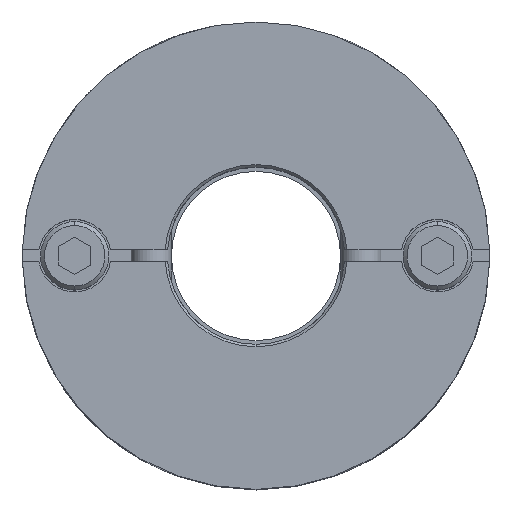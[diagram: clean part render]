
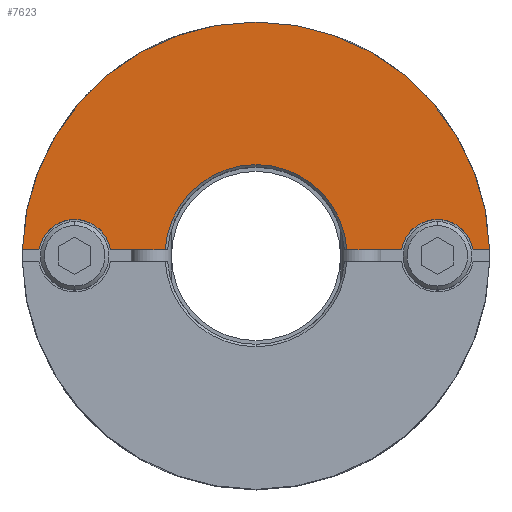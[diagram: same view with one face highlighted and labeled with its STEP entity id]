
A CAD part, top view. The second image highlights one B-rep face of the part: STEP entity #7623.
In plain terms, the highlighted planar face has unit normal (0, 0, 1).
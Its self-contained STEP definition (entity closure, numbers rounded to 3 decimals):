
#605=CARTESIAN_POINT('',(0.,29.,22.4));
#606=VERTEX_POINT('',#605);
#690=CARTESIAN_POINT('',(-28.99,0.75,22.4));
#691=VERTEX_POINT('',#690);
#698=CARTESIAN_POINT('',(0.0,0.,22.4));
#699=DIRECTION('',(0.0,0.0,-1.0));
#700=DIRECTION('',(0.0,1.0,0.0));
#701=AXIS2_PLACEMENT_3D('',#698,#699,#700);
#702=CIRCLE('',#701,29.0);
#703=EDGE_CURVE('',#691,#606,#702,.T.);
#915=CARTESIAN_POINT('',(0.,11.3,22.4));
#916=VERTEX_POINT('',#915);
#925=CARTESIAN_POINT('',(-11.275,0.75,22.4));
#926=VERTEX_POINT('',#925);
#927=CARTESIAN_POINT('',(0.0,0.,22.4));
#928=DIRECTION('',(0.0,0.0,1.0));
#929=DIRECTION('',(0.0,-1.0,0.0));
#930=AXIS2_PLACEMENT_3D('',#927,#928,#929);
#931=CIRCLE('',#930,11.3);
#932=EDGE_CURVE('',#916,#926,#931,.T.);
#1013=CARTESIAN_POINT('',(-22.5,4.5,22.4));
#1014=VERTEX_POINT('',#1013);
#1023=CARTESIAN_POINT('',(-26.937,0.75,22.4));
#1024=VERTEX_POINT('',#1023);
#1025=CARTESIAN_POINT('',(-22.5,0.,22.4));
#1026=DIRECTION('',(0.0,0.0,-1.0));
#1027=DIRECTION('',(0.0,1.0,0.0));
#1028=AXIS2_PLACEMENT_3D('',#1025,#1026,#1027);
#1029=CIRCLE('',#1028,4.5);
#1030=EDGE_CURVE('',#1024,#1014,#1029,.T.);
#1097=CARTESIAN_POINT('',(22.5,4.5,22.4));
#1098=VERTEX_POINT('',#1097);
#1107=CARTESIAN_POINT('',(18.063,0.75,22.4));
#1108=VERTEX_POINT('',#1107);
#1109=CARTESIAN_POINT('',(22.5,0.,22.4));
#1110=DIRECTION('',(0.0,0.0,-1.0));
#1111=DIRECTION('',(0.0,1.0,0.0));
#1112=AXIS2_PLACEMENT_3D('',#1109,#1110,#1111);
#1113=CIRCLE('',#1112,4.5);
#1114=EDGE_CURVE('',#1108,#1098,#1113,.T.);
#6292=CARTESIAN_POINT('',(11.275,0.75,22.4));
#6293=VERTEX_POINT('',#6292);
#6294=CARTESIAN_POINT('',(11.275,0.75,22.4));
#6295=DIRECTION('',(1.0,0.0,0.0));
#6296=VECTOR('',#6295,6.788);
#6297=LINE('',#6294,#6296);
#6298=EDGE_CURVE('',#6293,#1108,#6297,.T.);
#6667=CARTESIAN_POINT('',(-18.063,0.75,22.4));
#6668=VERTEX_POINT('',#6667);
#6669=CARTESIAN_POINT('',(-18.063,0.75,22.4));
#6670=DIRECTION('',(1.0,0.0,0.0));
#6671=VECTOR('',#6670,6.788);
#6672=LINE('',#6669,#6671);
#6673=EDGE_CURVE('',#6668,#926,#6672,.T.);
#7430=CARTESIAN_POINT('',(26.937,0.75,22.4));
#7431=VERTEX_POINT('',#7430);
#7438=CARTESIAN_POINT('',(22.5,0.,22.4));
#7439=DIRECTION('',(0.0,0.0,-1.0));
#7440=DIRECTION('',(0.0,1.0,0.0));
#7441=AXIS2_PLACEMENT_3D('',#7438,#7439,#7440);
#7442=CIRCLE('',#7441,4.5);
#7443=EDGE_CURVE('',#1098,#7431,#7442,.T.);
#7486=CARTESIAN_POINT('',(-22.5,0.,22.4));
#7487=DIRECTION('',(0.0,0.0,-1.0));
#7488=DIRECTION('',(0.0,1.0,0.0));
#7489=AXIS2_PLACEMENT_3D('',#7486,#7487,#7488);
#7490=CIRCLE('',#7489,4.5);
#7491=EDGE_CURVE('',#1014,#6668,#7490,.T.);
#7510=CARTESIAN_POINT('',(28.99,0.75,22.4));
#7511=VERTEX_POINT('',#7510);
#7518=CARTESIAN_POINT('',(26.937,0.75,22.4));
#7519=DIRECTION('',(1.0,0.0,0.0));
#7520=VECTOR('',#7519,2.053);
#7521=LINE('',#7518,#7520);
#7522=EDGE_CURVE('',#7431,#7511,#7521,.T.);
#7587=CARTESIAN_POINT('',(0.,2.636,22.4));
#7588=DIRECTION('',(0.0,0.0,1.0));
#7589=DIRECTION('',(0.0,1.0,0.0));
#7590=AXIS2_PLACEMENT_3D('',#7587,#7588,#7589);
#7591=PLANE('',#7590);
#7592=ORIENTED_EDGE('',*,*,#1114,.T.);
#7593=ORIENTED_EDGE('',*,*,#7443,.T.);
#7594=ORIENTED_EDGE('',*,*,#7522,.T.);
#7595=CARTESIAN_POINT('',(0.0,0.,22.4));
#7596=DIRECTION('',(0.0,0.0,-1.0));
#7597=DIRECTION('',(0.0,1.0,0.0));
#7598=AXIS2_PLACEMENT_3D('',#7595,#7596,#7597);
#7599=CIRCLE('',#7598,29.0);
#7600=EDGE_CURVE('',#606,#7511,#7599,.T.);
#7601=ORIENTED_EDGE('',*,*,#7600,.F.);
#7602=ORIENTED_EDGE('',*,*,#703,.F.);
#7603=CARTESIAN_POINT('',(-28.99,0.75,22.4));
#7604=DIRECTION('',(1.0,0.0,0.0));
#7605=VECTOR('',#7604,2.053);
#7606=LINE('',#7603,#7605);
#7607=EDGE_CURVE('',#691,#1024,#7606,.T.);
#7608=ORIENTED_EDGE('',*,*,#7607,.T.);
#7609=ORIENTED_EDGE('',*,*,#1030,.T.);
#7610=ORIENTED_EDGE('',*,*,#7491,.T.);
#7611=ORIENTED_EDGE('',*,*,#6673,.T.);
#7612=ORIENTED_EDGE('',*,*,#932,.F.);
#7613=CARTESIAN_POINT('',(0.0,0.,22.4));
#7614=DIRECTION('',(0.0,0.0,1.0));
#7615=DIRECTION('',(0.0,-1.0,0.0));
#7616=AXIS2_PLACEMENT_3D('',#7613,#7614,#7615);
#7617=CIRCLE('',#7616,11.3);
#7618=EDGE_CURVE('',#6293,#916,#7617,.T.);
#7619=ORIENTED_EDGE('',*,*,#7618,.F.);
#7620=ORIENTED_EDGE('',*,*,#6298,.T.);
#7621=EDGE_LOOP('',(#7592,#7593,#7594,#7601,#7602,#7608,#7609,#7610,#7611,#7612,#7619,#7620));
#7622=FACE_OUTER_BOUND('',#7621,.T.);
#7623=ADVANCED_FACE('',(#7622),#7591,.T.);
